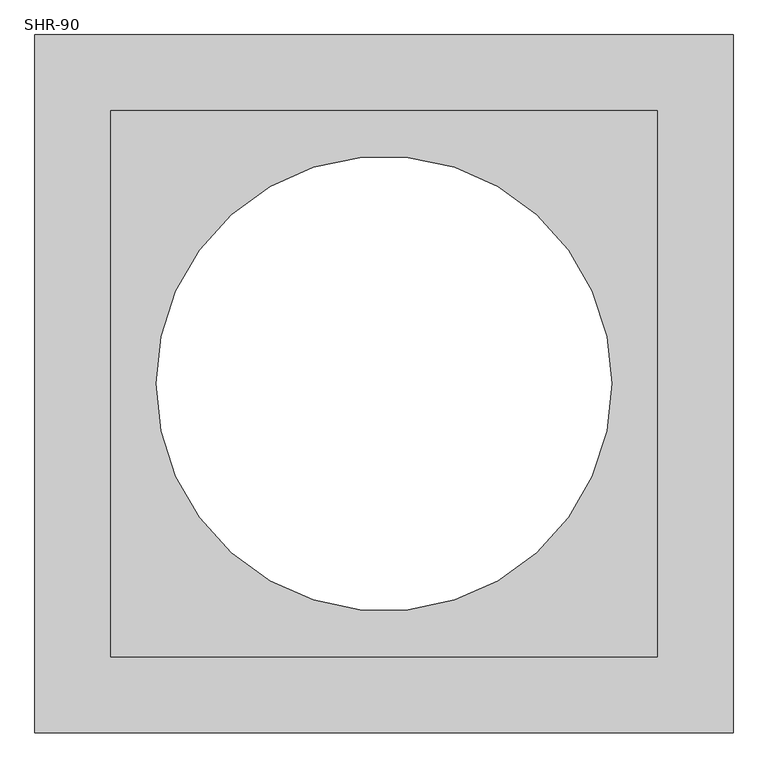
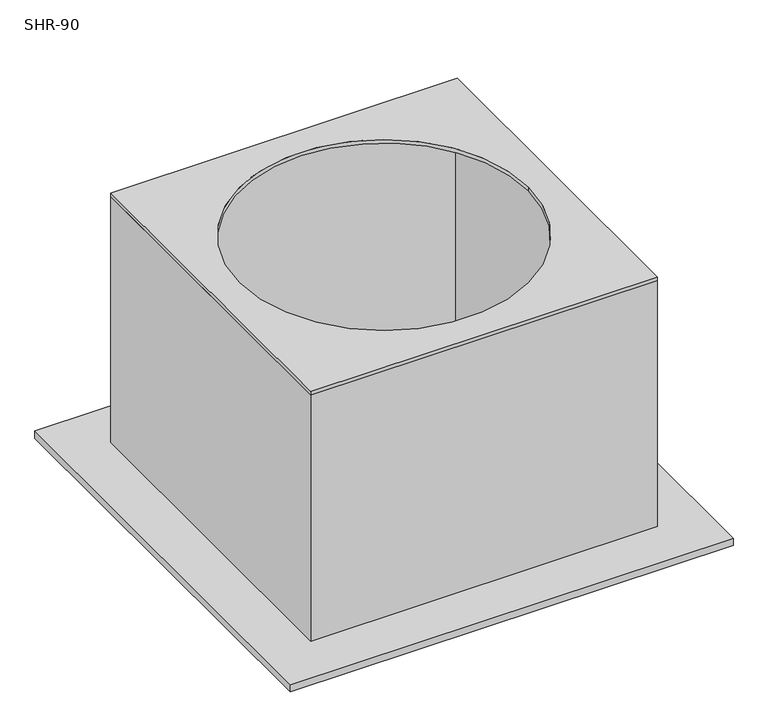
"""IFC4 building model written with IfcOpenShell, lengths in millimetres: damper geometry, СВ_Шумоглушитель_КрышныйПрямоугольный_30-100_SHR : SHR-90."""

from ifc_helpers import new_model, si_unit, point, frame, origin, origin_2d, place, context, project, spatial, polyline, circle_curve, trimmed, segment, composite_curve, outline, extrude, faceted_brep, source, transform, mapped, element, save


def shr_90_ec80b47c(model_context):
    return source(origin(), model_context, "Body", "SolidModel", [
        extrude(outline(polyline([(450.0, 450.0), (450.0, -450.0), (-450.0, -450.0), (-450.0, 450.0), (450.0, 450.0)]), holes=[composite_curve([segment(trimmed(circle_curve(origin_2d(), 375.0), [point((-375.0, 0.0))], [point((375.0, 0.0))], True, "CARTESIAN"), True, "CONTINUOUS"), segment(trimmed(circle_curve(origin_2d(), 375.0), [point((375.0, 0.0))], [point((-375.0, 0.0))], True, "CARTESIAN"), True, "CONTINUOUS")], self_intersect=False)]), frame((0.0, 0.0, -10.0), z_axis=(0.0, 0.0, 1.0), x_axis=(1.0, 0.0, 0.0)), (0.0, 0.0, 1.0), 10.0),
        faceted_brep([(-575.0, -575.0, -686.0), (575.0, -575.0, -686.0), (575.0, 575.0, -686.0), (-575.0, 575.0, -686.0), (-450.0, 450.0, -686.0), (450.0, 450.0, -686.0), (450.0, -450.0, -686.0), (-450.0, -450.0, -686.0), (-575.0, -575.0, -706.0), (-575.0, 575.0, -706.0), (575.0, 575.0, -706.0), (575.0, -575.0, -706.0), (-440.0, -440.0, -706.0), (440.0, -440.0, -706.0), (440.0, 440.0, -706.0), (-440.0, 440.0, -706.0), (450.0, 450.0, -10.0), (-450.0, 450.0, -10.0), (-450.0, -450.0, -10.0), (450.0, -450.0, -10.0), (-440.0, -440.0, -10.0), (-440.0, 440.0, -10.0), (440.0, 440.0, -10.0), (440.0, -440.0, -10.0)], [[[0, 1, 2, 3], [4, 5, 6, 7]], [[8, 9, 10, 11], [12, 13, 14, 15]], [[1, 0, 8, 11]], [[2, 1, 11, 10]], [[3, 2, 10, 9]], [[0, 3, 9, 8]], [[16, 17, 18, 19], [20, 21, 22, 23]], [[20, 23, 13, 12]], [[23, 22, 14, 13]], [[22, 21, 15, 14]], [[21, 20, 12, 15]], [[17, 16, 5, 4]], [[18, 17, 4, 7]], [[19, 18, 7, 6]], [[16, 19, 6, 5]]]),
    ])


if __name__ == "__main__":
    model = new_model("IFC4")
    model_context = context("Model", 3, world=origin())
    ifc_project = project(units=[si_unit("LENGTHUNIT", "METRE", prefix="MILLI")], contexts=[model_context])
    site = spatial("IfcSite", under=ifc_project)
    building = spatial("IfcBuilding", under=site)
    placement = place(None, origin())
    shr_90_shape = shr_90_ec80b47c(model_context)
    element("IfcDamper", 1, ObjectType="СВ_Шумоглушитель_КрышныйПрямоугольный_30-100_SHR : SHR-90", at=placement, inside=building, context=model_context, shape_type="MappedRepresentation", body=[
        mapped(shr_90_shape, transform((0.0, 0.0, 0.0), x_axis=(1.0, 0.0, 0.0), y_axis=(0.0, 1.0, 0.0), z_axis=(0.0, 0.0, 1.0))),
    ])
    save(model, "model.ifc")
